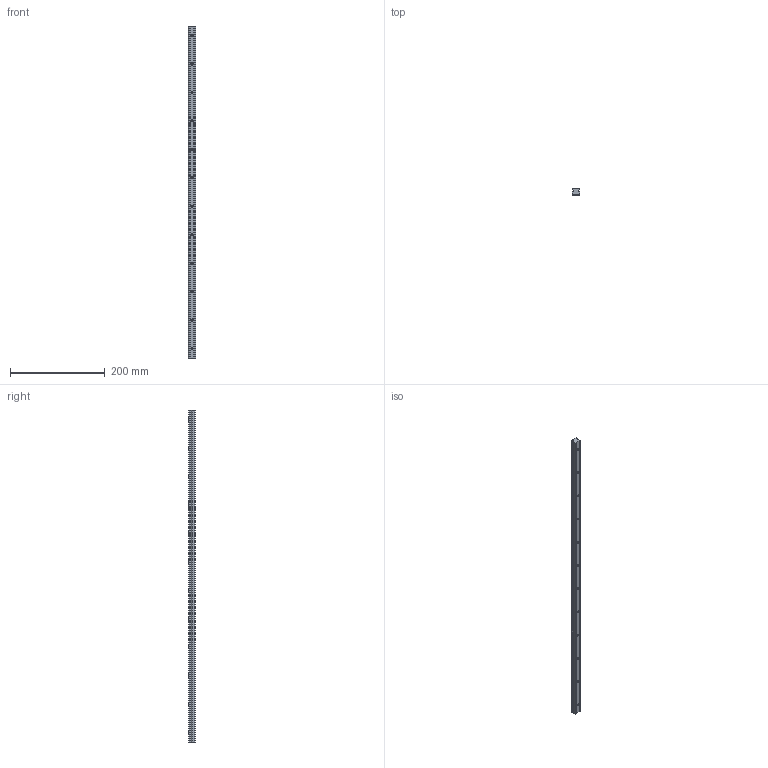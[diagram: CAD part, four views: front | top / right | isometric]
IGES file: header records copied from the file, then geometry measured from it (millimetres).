
Start section: SolidWorks IGES file using analytic representation for surfaces
Global section: file name: C:\Users\IanO\Desktop\L1016_v2\L1016.BL15_v2\L1016.BL15_v2_20190611_IGES\L1016.BL15-0700.igs; native system: SolidWorks 2017; preprocessor: SolidWorks 2017; author: IanO; date: 190612.122627; units: millimetre
Bounding box: 15 x 13 x 700 mm (x, y, z)
Surface area: 43070.1 mm2 (no closed solid volume)
Topology: 0 solids, 0 shells, 86 faces, 1880 edges, 1880 vertices
Faces by surface type: revolution 52, bspline 34
